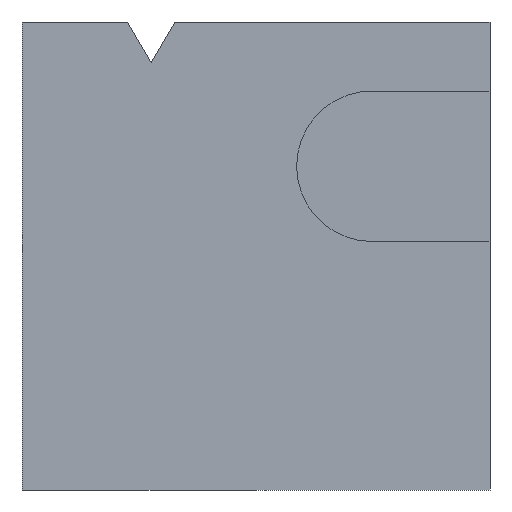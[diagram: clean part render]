
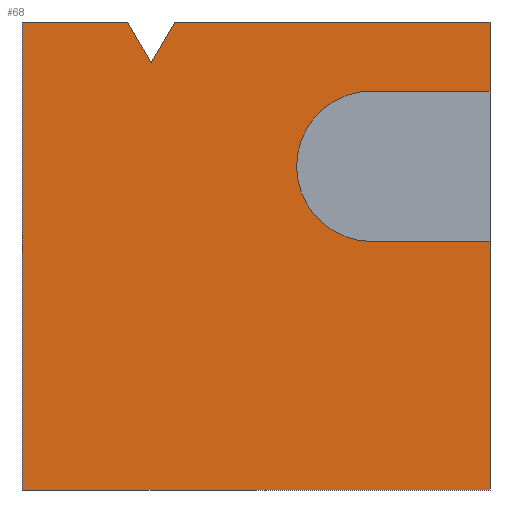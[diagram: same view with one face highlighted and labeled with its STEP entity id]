
A CAD part, left-side view. The second image highlights one B-rep face of the part: STEP entity #68.
In plain terms, the highlighted planar face has unit normal (-1, 0, 0).
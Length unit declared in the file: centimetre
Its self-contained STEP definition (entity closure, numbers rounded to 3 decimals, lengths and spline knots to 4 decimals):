
#2 = PLANE ( 'NONE',  #3 ) ;
#3 = AXIS2_PLACEMENT_3D ( 'NONE', #36, #54, #451 ) ;
#21 = VERTEX_POINT ( 'NONE', #237 ) ;
#28 = ORIENTED_EDGE ( 'NONE', *, *, #80, .F. ) ;
#32 = VERTEX_POINT ( 'NONE', #320 ) ;
#35 = EDGE_LOOP ( 'NONE', ( #104, #60, #218, #311, #340, #401, #28, #109, #222, #460, #342 ) ) ;
#36 = CARTESIAN_POINT ( 'NONE',  ( 0., 1000., 1000. ) ) ;
#44 = VERTEX_POINT ( 'NONE', #234 ) ;
#50 = CARTESIAN_POINT ( 'NONE',  ( 0., 252.5099, 691.7743 ) ) ;
#51 = CARTESIAN_POINT ( 'NONE',  ( 0., 724.0153, 913.2873 ) ) ;
#54 = DIRECTION ( 'NONE',  ( 1., 0., 0. ) ) ;
#56 = LINE ( 'NONE', #224, #171 ) ;
#59 = LINE ( 'NONE', #200, #121 ) ;
#60 = ORIENTED_EDGE ( 'NONE', *, *, #326, .F. ) ;
#68 = ADVANCED_FACE ( 'NONE', ( #336 ), #2, .F. ) ;
#73 = CIRCLE ( 'NONE', #425, 160.7286 ) ;
#74 = LINE ( 'NONE', #185, #270 ) ;
#80 = EDGE_CURVE ( 'NONE', #338, #299, #74, .T. ) ;
#84 = CARTESIAN_POINT ( 'NONE',  ( 0., 1000., 1000. ) ) ;
#85 = DIRECTION ( 'NONE',  ( 0., -1., 0. ) ) ;
#88 = DIRECTION ( 'NONE',  ( 0., -1., 0. ) ) ;
#99 = VERTEX_POINT ( 'NONE', #402 ) ;
#102 = VERTEX_POINT ( 'NONE', #405 ) ;
#104 = ORIENTED_EDGE ( 'NONE', *, *, #176, .F. ) ;
#109 = ORIENTED_EDGE ( 'NONE', *, *, #281, .F. ) ;
#110 = DIRECTION ( 'NONE',  ( 0., -1., 0. ) ) ;
#114 = CARTESIAN_POINT ( 'NONE',  ( 0., 1000., 1000. ) ) ;
#119 = DIRECTION ( 'NONE',  ( 0., -1., 0. ) ) ;
#121 = VECTOR ( 'NONE', #413, 100. ) ;
#126 = EDGE_CURVE ( 'NONE', #299, #21, #56, .T. ) ;
#135 = EDGE_CURVE ( 'NONE', #173, #364, #73, .T. ) ;
#155 = DIRECTION ( 'NONE',  ( 0., -0.503, -0.864 ) ) ;
#158 = CARTESIAN_POINT ( 'NONE',  ( 0., 673.5237, 1000. ) ) ;
#168 = EDGE_CURVE ( 'NONE', #32, #102, #267, .T. ) ;
#171 = VECTOR ( 'NONE', #119, 100. ) ;
#173 = VERTEX_POINT ( 'NONE', #414 ) ;
#176 = EDGE_CURVE ( 'NONE', #325, #392, #296, .T. ) ;
#185 = CARTESIAN_POINT ( 'NONE',  ( 0., 673.5237, 1000. ) ) ;
#186 = LINE ( 'NONE', #51, #280 ) ;
#192 = LINE ( 'NONE', #258, #404 ) ;
#194 = DIRECTION ( 'NONE',  ( 0., 0., -1. ) ) ;
#200 = CARTESIAN_POINT ( 'NONE',  ( 0., 252.5099, 852.5029 ) ) ;
#204 = LINE ( 'NONE', #341, #396 ) ;
#210 = VECTOR ( 'NONE', #110, 100. ) ;
#217 = VECTOR ( 'NONE', #440, 100. ) ;
#218 = ORIENTED_EDGE ( 'NONE', *, *, #135, .F. ) ;
#222 = ORIENTED_EDGE ( 'NONE', *, *, #168, .F. ) ;
#224 = CARTESIAN_POINT ( 'NONE',  ( 0., 1000., 1000. ) ) ;
#228 = EDGE_CURVE ( 'NONE', #21, #99, #204, .T. ) ;
#234 = CARTESIAN_POINT ( 'NONE',  ( 0., 1000., 0. ) ) ;
#237 = CARTESIAN_POINT ( 'NONE',  ( 0., 0., 1000. ) ) ;
#258 = CARTESIAN_POINT ( 'NONE',  ( 0., 0., 531.0457 ) ) ;
#259 = EDGE_CURVE ( 'NONE', #99, #173, #59, .T. ) ;
#261 = CARTESIAN_POINT ( 'NONE',  ( 0., 1000., 0. ) ) ;
#262 = CARTESIAN_POINT ( 'NONE',  ( 0., 0., 1000. ) ) ;
#267 = LINE ( 'NONE', #84, #335 ) ;
#270 = VECTOR ( 'NONE', #323, 100. ) ;
#280 = VECTOR ( 'NONE', #155, 100. ) ;
#281 = EDGE_CURVE ( 'NONE', #102, #338, #186, .T. ) ;
#284 = EDGE_CURVE ( 'NONE', #32, #44, #403, .T. ) ;
#292 = CARTESIAN_POINT ( 'NONE',  ( 0., 0., 0. ) ) ;
#296 = LINE ( 'NONE', #262, #217 ) ;
#297 = VECTOR ( 'NONE', #399, 100. ) ;
#298 = CARTESIAN_POINT ( 'NONE',  ( 0., 252.5099, 531.0457 ) ) ;
#299 = VERTEX_POINT ( 'NONE', #158 ) ;
#300 = DIRECTION ( 'NONE',  ( -1., 0., 0. ) ) ;
#311 = ORIENTED_EDGE ( 'NONE', *, *, #259, .F. ) ;
#320 = CARTESIAN_POINT ( 'NONE',  ( 0., 1000., 1000. ) ) ;
#323 = DIRECTION ( 'NONE',  ( 0., -0.503, 0.864 ) ) ;
#325 = VERTEX_POINT ( 'NONE', #442 ) ;
#326 = EDGE_CURVE ( 'NONE', #364, #325, #192, .T. ) ;
#335 = VECTOR ( 'NONE', #88, 100. ) ;
#336 = FACE_OUTER_BOUND ( 'NONE', #35, .T. ) ;
#338 = VERTEX_POINT ( 'NONE', #373 ) ;
#340 = ORIENTED_EDGE ( 'NONE', *, *, #228, .F. ) ;
#341 = CARTESIAN_POINT ( 'NONE',  ( 0., 0., 1000. ) ) ;
#342 = ORIENTED_EDGE ( 'NONE', *, *, #452, .T. ) ;
#364 = VERTEX_POINT ( 'NONE', #298 ) ;
#367 = LINE ( 'NONE', #261, #210 ) ;
#373 = CARTESIAN_POINT ( 'NONE',  ( 0., 724.0153, 913.2873 ) ) ;
#392 = VERTEX_POINT ( 'NONE', #292 ) ;
#396 = VECTOR ( 'NONE', #458, 100. ) ;
#399 = DIRECTION ( 'NONE',  ( 0., 0., -1. ) ) ;
#401 = ORIENTED_EDGE ( 'NONE', *, *, #126, .F. ) ;
#402 = CARTESIAN_POINT ( 'NONE',  ( 0., 0., 852.5029 ) ) ;
#403 = LINE ( 'NONE', #114, #297 ) ;
#404 = VECTOR ( 'NONE', #85, 100. ) ;
#405 = CARTESIAN_POINT ( 'NONE',  ( 0., 774.5068, 1000. ) ) ;
#413 = DIRECTION ( 'NONE',  ( 0., 1., 0. ) ) ;
#414 = CARTESIAN_POINT ( 'NONE',  ( 0., 252.5099, 852.5029 ) ) ;
#425 = AXIS2_PLACEMENT_3D ( 'NONE', #50, #300, #194 ) ;
#440 = DIRECTION ( 'NONE',  ( 0., 0., -1. ) ) ;
#442 = CARTESIAN_POINT ( 'NONE',  ( 0., 0., 531.0457 ) ) ;
#451 = DIRECTION ( 'NONE',  ( 0., 0., -1. ) ) ;
#452 = EDGE_CURVE ( 'NONE', #44, #392, #367, .T. ) ;
#458 = DIRECTION ( 'NONE',  ( 0., 0., -1. ) ) ;
#460 = ORIENTED_EDGE ( 'NONE', *, *, #284, .T. ) ;
